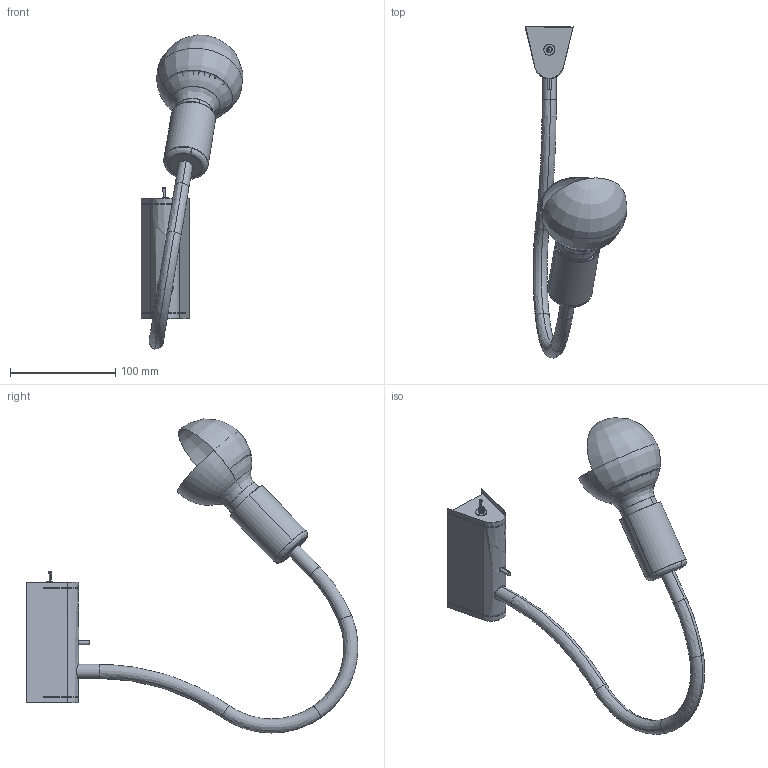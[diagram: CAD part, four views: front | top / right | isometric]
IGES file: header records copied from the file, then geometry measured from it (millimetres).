
Start section: SolidWorks IGES file using analytic representation for surfaces
Global section: file name: E:\3D lampy\Flex\Flex_9768,9774.IGS; native system: SolidWorks 2016; preprocessor: SolidWorks 2016; author: Asia; date: 170623.114310; units: millimetre
Bounding box: 97.13 x 316.07 x 299.08 mm (x, y, z)
Surface area: 131454.3 mm2 (no closed solid volume)
Topology: 0 solids, 0 shells, 260 faces, 3077 edges, 3072 vertices
Faces by surface type: revolution 170, bspline 90
